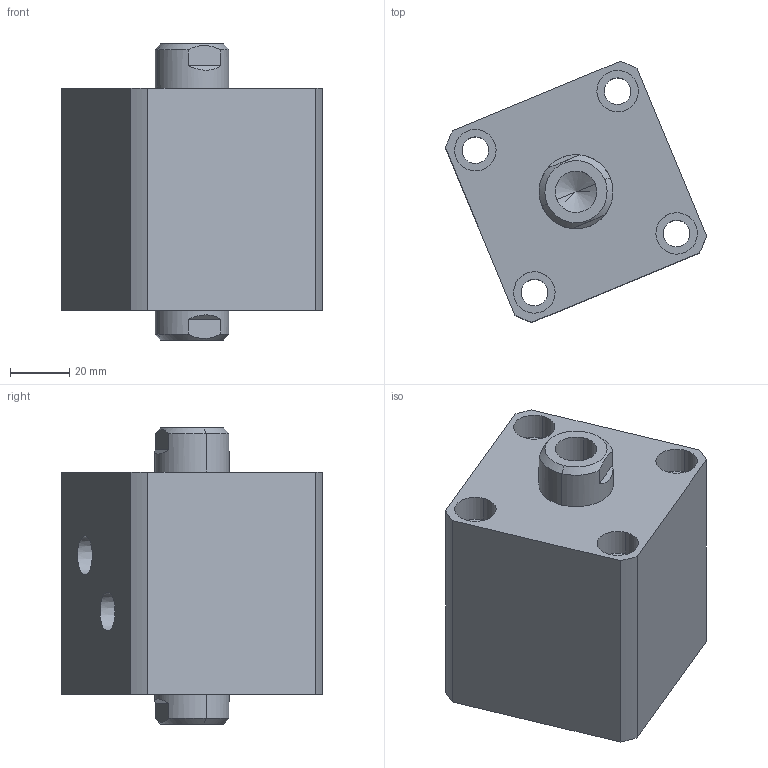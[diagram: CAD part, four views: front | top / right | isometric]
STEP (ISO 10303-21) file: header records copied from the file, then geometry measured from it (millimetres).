
FILE_DESCRIPTION (( 'STEP AP214' ), '1' );
FILE_NAME ('chtb-sw40x5n_asm.STEP', '2018-06-08T11:11:05', ( 'Windows' ), ( 'Microsoft' ), 'SwSTEP 2.0', 'SolidWorks 2015', '' );
FILE_SCHEMA (( 'AUTOMOTIVE_DESIGN' ));
Length unit declared in the file: millimetre
Products named in the file (4): CHTB-SW40X5NHSG; CHTB-SW40X5NBT; CHTB-SD40QG; chtb-sw40x5n_asm
Assembly tree (3 placements, depth 2):
  chtb-sw40x5n_asm
    CHTB-SD40QG
    CHTB-SW40X5NBT
    CHTB-SW40X5NHSG
Bounding box: 88.11 x 88.11 x 100 mm (x, y, z)
Volume: 334840 mm3; surface area: 71373.2 mm2
Topology: 3 solids, 3 shells, 167 faces, 429 edges, 282 vertices
Faces by surface type: cylinder 84, plane 40, cone 17, bspline 14, torus 12
Entity records: 10325 total; most frequent: CARTESIAN_POINT 6131, ORIENTED_EDGE 838, DIRECTION 822, EDGE_CURVE 419, AXIS2_PLACEMENT_3D 348, VERTEX_POINT 282, EDGE_LOOP 207, CIRCLE 189
